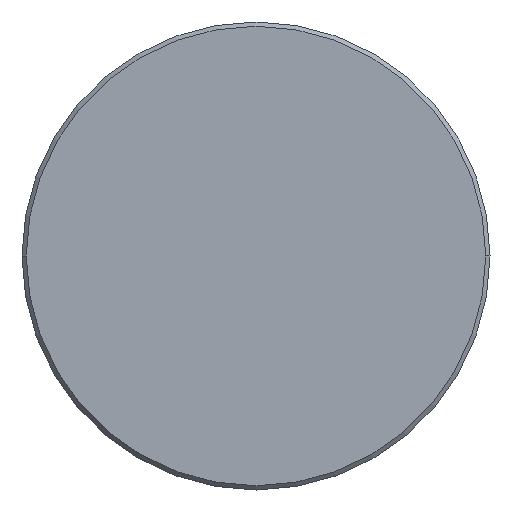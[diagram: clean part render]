
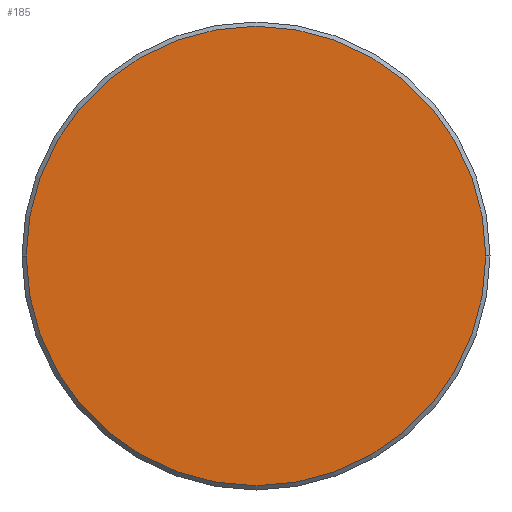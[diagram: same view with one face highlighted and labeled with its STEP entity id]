
A CAD part, left-side view. The second image highlights one B-rep face of the part: STEP entity #185.
In plain terms, the highlighted planar face has unit normal (-1, 0, 0).
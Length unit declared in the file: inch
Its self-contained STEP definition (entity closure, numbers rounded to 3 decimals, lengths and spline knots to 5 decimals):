
#20 = VERTEX_POINT ( 'NONE', #124 ) ;
#39 = CARTESIAN_POINT ( 'NONE',  ( 0., 0., 0. ) ) ;
#90 = CARTESIAN_POINT ( 'NONE',  ( 0., 0., 0. ) ) ;
#94 = VERTEX_POINT ( 'NONE', #240 ) ;
#115 = CARTESIAN_POINT ( 'NONE',  ( 0., 0., 0. ) ) ;
#124 = CARTESIAN_POINT ( 'NONE',  ( 0., 0.21475, 0. ) ) ;
#139 = AXIS2_PLACEMENT_3D ( 'NONE', #90, #251, #319 ) ;
#151 = EDGE_CURVE ( 'NONE', #94, #20, #291, .T. ) ;
#155 = CIRCLE ( 'NONE', #139, 0.21475 ) ;
#162 = DIRECTION ( 'NONE',  ( -1., 0., 0. ) ) ;
#164 = DIRECTION ( 'NONE',  ( -1., 0., 0. ) ) ;
#185 = ADVANCED_FACE ( 'NONE', ( #267 ), #214, .T. ) ;
#199 = ORIENTED_EDGE ( 'NONE', *, *, #151, .T. ) ;
#214 = PLANE ( 'NONE',  #374 ) ;
#240 = CARTESIAN_POINT ( 'NONE',  ( 0., -0.21475, 0. ) ) ;
#251 = DIRECTION ( 'NONE',  ( -1., 0., 0. ) ) ;
#267 = FACE_OUTER_BOUND ( 'NONE', #375, .T. ) ;
#275 = DIRECTION ( 'NONE',  ( 0., -1., 0. ) ) ;
#291 = CIRCLE ( 'NONE', #299, 0.21475 ) ;
#299 = AXIS2_PLACEMENT_3D ( 'NONE', #39, #162, #300 ) ;
#300 = DIRECTION ( 'NONE',  ( 0., -1., 0. ) ) ;
#319 = DIRECTION ( 'NONE',  ( 0., -1., 0. ) ) ;
#350 = ORIENTED_EDGE ( 'NONE', *, *, #359, .T. ) ;
#359 = EDGE_CURVE ( 'NONE', #20, #94, #155, .T. ) ;
#374 = AXIS2_PLACEMENT_3D ( 'NONE', #115, #164, #275 ) ;
#375 = EDGE_LOOP ( 'NONE', ( #350, #199 ) ) ;
